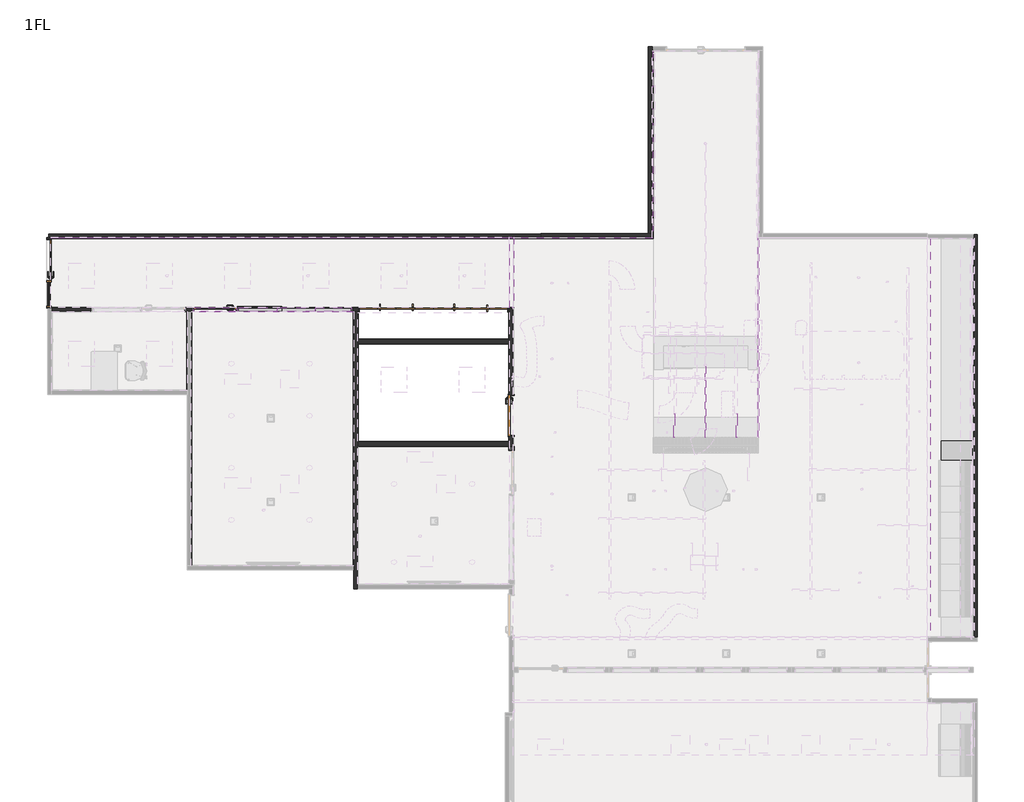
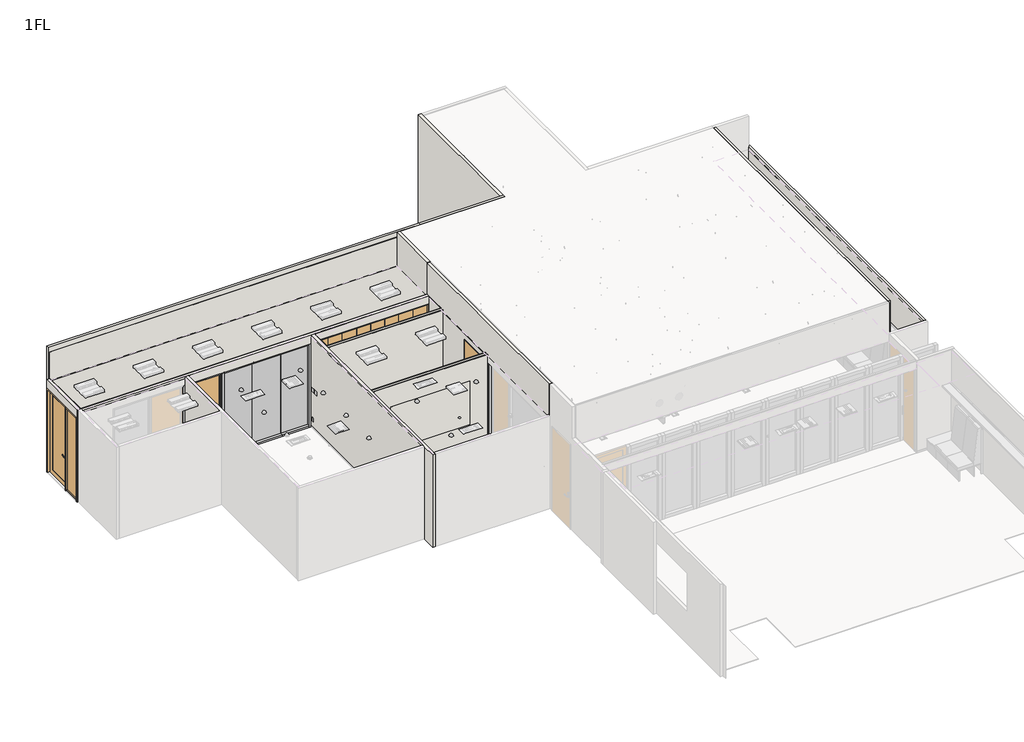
# One storey, part 3 of 13: 33 walls, 16 members, 5 plates, 4 doors.
"""IFC4 building model written with IfcOpenShell, lengths in millimetres."""

from ifc_helpers import new_model, si_unit, frame, origin, place, context, project, spatial, polyline, outline, extrude, faceted_brep, transform, mapped, element, save
from components import steel_single_door_gpd_1_6503526e, steel_single_door_side_glass_gd_1e_1588x2700_2b40b70f, wd_3_3425x2700_77d3bb71, wood_single_door_sd_1_950x2700_4097bdad, frame_100x1003_340101ea, frame_50x100_849c561a, frame_50x100_6c4cdc7a, frame_50x100_6d6498be, frame_50x100_53001aca, frame_50x100_defbaeaa, frame_50x100_1ab4e24a, frame_50x100_909e5fd4, louver_20x150_8d1ae680, louver_20x150_c1fe2151, plate_64bb2212, interior_panel_glass_b28fc904, interior_panel_glass_ff3a4b2f, interior_panel_glass_b2a39446, millwork_bench2_millwork_bench2_b35541bf

model = new_model("IFC4")

# Units and contexts
model_context = context("Model", 3, world=origin())
ifc_project = project(units=[si_unit("LENGTHUNIT", "METRE", prefix="MILLI")], contexts=[model_context])

# Site, building, storey
site = spatial("IfcSite", under=ifc_project)
building = spatial("IfcBuilding", under=site)
storey = spatial("IfcBuildingStorey", under=building, Name="1FL", Elevation=500.0)

# Doors
placement = place(None, origin())
steel_single_door_gpd_1_shape = steel_single_door_gpd_1_6503526e(model_context)
element("IfcDoor", 1, ObjectType="Steel-Single-Door : GPD-1", at=placement, inside=storey, context=model_context, shape_type="MappedRepresentation", body=[
    mapped(steel_single_door_gpd_1_shape, transform((4722.9103689, 3423.4351177, 500.0), x_axis=(1.0, 0.0, 0.0), y_axis=(0.0, 1.0, 0.0), z_axis=(0.0, 0.0, 1.0))),
])
steel_single_door_side_glass_gd_1e_1588x2700_shape = steel_single_door_side_glass_gd_1e_1588x2700_2b40b70f(model_context)
element("IfcDoor", 2, ObjectType="Steel_Single-Door_Side-Glass : GD-1E_1588X2700", at=placement, inside=storey, context=model_context, shape_type="MappedRepresentation", body=[
    mapped(steel_single_door_side_glass_gd_1e_1588x2700_shape, transform((897.1488246, 4270.1921609, 500.0), x_axis=(0.0, 1.0, 0.0), y_axis=(-1.0, 0.0, 0.0), z_axis=(0.0, 0.0, 1.0))),
])
wd_3_3425x2700_shape = wd_3_3425x2700_77d3bb71(model_context)
element("IfcDoor", 3, ObjectType="Ward-Robe : WD-3_3425x2700", at=placement, inside=storey, context=model_context, shape_type="MappedRepresentation", body=[
    mapped(wd_3_3425x2700_shape, transform((9753.3186442, 3417.9345805, 500.0), x_axis=(1.0, 0.0, 0.0), y_axis=(0.0, 1.0, 0.0), z_axis=(0.0, 0.0, 1.0))),
])
wood_single_door_sd_1_950x2700_shape = wood_single_door_sd_1_950x2700_4097bdad(model_context)
element("IfcDoor", 4, ObjectType="Wood_Single-Door : SD-1_950x2700", at=placement, inside=storey, context=model_context, shape_type="MappedRepresentation", body=[
    mapped(wood_single_door_sd_1_950x2700_shape, transform((11543.0692788, 984.6264721, 500.0), x_axis=(0.0, 1.0, 0.0), y_axis=(-1.0, 0.0, 0.0), z_axis=(0.0, 0.0, 1.0))),
])

# Members
frame_100x1003_shape = frame_100x1003_340101ea(model_context)
element("IfcMember", 5, ObjectType="長方形マリオン : frame-100x1003", at=placement, inside=storey, context=model_context, shape_type="MappedRepresentation", body=[
    mapped(frame_100x1003_shape, transform((11548.5692788, 273.6264721, 3200.0), x_axis=(0.0, 1.0, 0.0), y_axis=(-1.0, 0.0, 0.0), z_axis=(0.0, 0.0, 1.0))),
])
frame_50x100_shape = frame_50x100_849c561a(model_context)
element("IfcMember", 6, ObjectType="長方形マリオン : frame-50x100", at=placement, inside=storey, context=model_context, shape_type="MappedRepresentation", body=[
    mapped(frame_50x100_shape, transform((7908.0480096, 3423.4351177, 500.0), x_axis=(1.0, 0.0, 0.0), y_axis=(0.0, -1.0, 0.0), z_axis=(0.0, 0.0, -1.0))),
])
frame_50x100_2_shape = frame_50x100_6c4cdc7a(model_context)
element("IfcMember", 7, ObjectType="長方形マリオン : frame-50x100", at=placement, inside=storey, context=model_context, shape_type="MappedRepresentation", body=[
    mapped(frame_50x100_2_shape, transform((5235.4103689, 3438.4345805, 500.0), x_axis=(0.0, 0.0, -1.0), y_axis=(0.0, -1.0, 0.0), z_axis=(-1.0, 0.0, 0.0))),
])
element("IfcMember", 8, ObjectType="長方形マリオン : frame-50x100", at=placement, inside=storey, context=model_context, shape_type="MappedRepresentation", body=[
    mapped(frame_50x100_shape, transform((4185.4103689, 3423.4351177, 3200.0), x_axis=(-1.0, 0.0, 0.0), y_axis=(0.0, -1.0, 0.0), z_axis=(0.0, 0.0, 1.0))),
])
frame_50x100_3_shape = frame_50x100_6d6498be(model_context)
element("IfcMember", 9, ObjectType="長方形マリオン : frame-50x100", at=placement, inside=storey, context=model_context, shape_type="MappedRepresentation", body=[
    mapped(frame_50x100_3_shape, transform((5210.4103689, 3423.4351177, 3200.0), x_axis=(0.0, 0.0, 1.0), y_axis=(0.0, -1.0, 0.0), z_axis=(1.0, 0.0, 0.0))),
])
frame_50x100_4_shape = frame_50x100_53001aca(model_context)
element("IfcMember", 10, ObjectType="長方形マリオン : frame-50x100", at=placement, inside=storey, context=model_context, shape_type="MappedRepresentation", body=[
    mapped(frame_50x100_4_shape, transform((5235.4103689, 3423.4351177, 500.0), x_axis=(1.0, 0.0, 0.0), y_axis=(0.0, -1.0, 0.0), z_axis=(0.0, 0.0, -1.0))),
])
frame_50x100_5_shape = frame_50x100_defbaeaa(model_context)
element("IfcMember", 11, ObjectType="長方形マリオン : frame-50x100", at=placement, inside=storey, context=model_context, shape_type="MappedRepresentation", body=[
    mapped(frame_50x100_5_shape, transform((7858.0480096, 3423.4351177, 3200.0), x_axis=(0.0, 0.0, 1.0), y_axis=(0.0, -1.0, 0.0), z_axis=(1.0, 0.0, 0.0))),
])
element("IfcMember", 12, ObjectType="長方形マリオン : frame-50x100", at=placement, inside=storey, context=model_context, shape_type="MappedRepresentation", body=[
    mapped(frame_50x100_5_shape, transform((7033.0480096, 3423.4351177, 500.0), x_axis=(0.0, 0.0, -1.0), y_axis=(0.0, -1.0, 0.0), z_axis=(-1.0, 0.0, 0.0))),
])
frame_50x100_6_shape = frame_50x100_1ab4e24a(model_context)
element("IfcMember", 13, ObjectType="長方形マリオン : frame-50x100", at=placement, inside=storey, context=model_context, shape_type="MappedRepresentation", body=[
    mapped(frame_50x100_6_shape, transform((6158.0480096, 3423.4351177, 500.0), x_axis=(0.0, 0.0, -1.0), y_axis=(0.0, -1.0, 0.0), z_axis=(-1.0, 0.0, 0.0))),
])
frame_50x100_7_shape = frame_50x100_909e5fd4(model_context)
element("IfcMember", 14, ObjectType="長方形マリオン : frame-50x100", at=placement, inside=storey, context=model_context, shape_type="MappedRepresentation", body=[
    mapped(frame_50x100_7_shape, transform((6158.0480096, 3423.4351177, 3200.0), x_axis=(0.0, 0.0, 1.0), y_axis=(0.0, -1.0, 0.0), z_axis=(1.0, 0.0, 0.0))),
])
element("IfcMember", 15, ObjectType="長方形マリオン : frame-50x100", at=placement, inside=storey, context=model_context, shape_type="MappedRepresentation", body=[
    mapped(frame_50x100_6_shape, transform((7033.0480096, 3423.4351177, 3200.0), x_axis=(0.0, 0.0, 1.0), y_axis=(0.0, -1.0, 0.0), z_axis=(1.0, 0.0, 0.0))),
])
element("IfcMember", 16, ObjectType="長方形マリオン : frame-50x100", at=placement, inside=storey, context=model_context, shape_type="MappedRepresentation", body=[
    mapped(frame_50x100_7_shape, transform((5260.4103689, 3423.4351177, 500.0), x_axis=(0.0, 0.0, -1.0), y_axis=(0.0, -1.0, 0.0), z_axis=(-1.0, 0.0, 0.0))),
])
element("IfcMember", 17, ObjectType="長方形マリオン : frame-50x100", at=placement, inside=storey, context=model_context, shape_type="MappedRepresentation", body=[
    mapped(frame_50x100_shape, transform((4074.3703689, 3423.4351177, 3200.0), x_axis=(1.0, 0.0, 0.0), y_axis=(0.0, 1.0, 0.0), z_axis=(0.0, 0.0, 1.0))),
])
louver_20x150_shape = louver_20x150_8d1ae680(model_context)
element("IfcMember", 18, ObjectType="長方形マリオン : louver-20x150", at=placement, inside=storey, context=model_context, shape_type="MappedRepresentation", body=[
    mapped(louver_20x150_shape, transform((16018.0692785, 2117.4284088, 3075.0), x_axis=(1.0, 0.0, 0.0), y_axis=(0.0, 0.0, -1.0), z_axis=(0.0, 1.0, 0.0))),
])
louver_20x150_2_shape = louver_20x150_c1fe2151(model_context)
element("IfcMember", 19, ObjectType="長方形マリオン : louver-20x150", at=placement, inside=storey, context=model_context, shape_type="MappedRepresentation", body=[
    mapped(louver_20x150_2_shape, transform((15298.0692785, 1033.4827523, 3075.0), x_axis=(1.0, 0.0, 0.0), y_axis=(0.0, 0.0, -1.0), z_axis=(0.0, 1.0, 0.0))),
])
element("IfcMember", 20, ObjectType="長方形マリオン : louver-20x150", at=placement, inside=storey, context=model_context, shape_type="MappedRepresentation", body=[
    mapped(louver_20x150_2_shape, transform((16738.0692785, 1033.4827523, 3075.0), x_axis=(1.0, 0.0, 0.0), y_axis=(0.0, 0.0, -1.0), z_axis=(0.0, 1.0, 0.0))),
])

# Plates
plate_shape = plate_64bb2212(model_context)
element("IfcPlate", 21, ObjectType="システム パネルなし : なし", at=placement, inside=storey, context=model_context, shape_type="MappedRepresentation", body=[
    mapped(plate_shape, transform((17236.0692784, 479.1921609, 3075.0), x_axis=(1.0, 0.0, 0.0), y_axis=(0.0, 0.0, -1.0), z_axis=(0.0, 1.0, 0.0))),
])
interior_panel_glass_shape = interior_panel_glass_b28fc904(model_context)
element("IfcPlate", 22, ObjectType="Interior-Panel : Glass", at=placement, inside=storey, context=model_context, shape_type="MappedRepresentation", body=[
    mapped(interior_panel_glass_shape, transform((5709.2291893, 3423.4351177, 550.0), x_axis=(1.0, 0.0, 0.0), y_axis=(0.0, 1.0, 0.0), z_axis=(0.0, 0.0, 1.0))),
])
interior_panel_glass_2_shape = interior_panel_glass_ff3a4b2f(model_context)
element("IfcPlate", 23, ObjectType="Interior-Panel : Glass", at=placement, inside=storey, context=model_context, shape_type="MappedRepresentation", body=[
    mapped(interior_panel_glass_2_shape, transform((6595.5480096, 3423.4351177, 550.0), x_axis=(1.0, 0.0, 0.0), y_axis=(0.0, 1.0, 0.0), z_axis=(0.0, 0.0, 1.0))),
])
interior_panel_glass_3_shape = interior_panel_glass_b2a39446(model_context)
element("IfcPlate", 24, ObjectType="Interior-Panel : Glass", at=placement, inside=storey, context=model_context, shape_type="MappedRepresentation", body=[
    mapped(interior_panel_glass_3_shape, transform((7445.5480096, 3423.4351177, 550.0), x_axis=(1.0, 0.0, 0.0), y_axis=(0.0, 1.0, 0.0), z_axis=(0.0, 0.0, 1.0))),
])
millwork_bench2_millwork_bench2_shape = millwork_bench2_millwork_bench2_b35541bf(model_context)
element("IfcPlate", 25, ObjectType="Millwork Bench2 : Millwork Bench2", at=placement, inside=storey, context=model_context, shape_type="MappedRepresentation", body=[
    mapped(millwork_bench2_millwork_bench2_shape, transform((22170.569283, 178.6991949, 500.0), x_axis=(0.0, 1.0, 0.0), y_axis=(-1.0, 0.0, 0.0), z_axis=(0.0, 0.0, 1.0))),
])

# Walls
element("IfcWall", 26, ObjectType="CF-5", at=placement, inside=storey, context=model_context, shape_type="SweptSolid", body=[
    extrude(outline(polyline([(21127.5692788, -4129.7797031), (21127.5692788, 5071.1921609), (21194.5692788, 5071.1921609), (21194.5692788, -4129.7797031), (21127.5692788, -4129.7797031)])), frame((0.0, 0.0, 3467.0), z_axis=(0.0, 0.0, 1.0), x_axis=(1.0, 0.0, 0.0)), (0.0, 0.0, 1.0), 1003.0),
])
element("IfcWall", 27, ObjectType="W-1", at=placement, inside=storey, context=model_context, shape_type="Brep", body=[
    faceted_brep([(8009.5680096, -3010.7797031, 500.0), (8009.5680096, -2918.7797031, 500.0), (8009.5680096, 283.1264721, 500.0), (8009.5680096, 375.1264721, 500.0), (8009.5680096, 2638.5099201, 500.0), (8009.5680096, 2730.5099201, 500.0), (8009.5680096, 3371.9345805, 500.0), (8009.5680096, 3371.9345805, 3465.0), (8009.5680096, -2918.7797031, 3465.0), (8009.5680096, -3010.7797031, 3465.0), (7917.5680096, -3010.7797031, 500.0), (7917.5680096, -3010.7797031, 3465.0), (7917.5680096, -2576.9426633, 3465.0), (7917.5680096, -2484.9426633, 3465.0), (7917.5680096, 3371.9345805, 3465.0), (7917.5680096, 3371.9345805, 500.0), (7917.5680096, -2484.9426633, 500.0), (7917.5680096, -2576.9426633, 500.0)], [[[0, 1, 2, 3, 4, 5, 6, 7, 8, 9]], [[10, 11, 12, 13, 14, 15, 16, 17]], [[6, 5, 4, 3, 2, 1, 0, 10, 17, 16, 15]], [[9, 8, 7, 14, 13, 12, 11]], [[0, 9, 11, 10]], [[7, 6, 15, 14]]]),
])
element("IfcWall", 28, ObjectType="W-3", at=placement, inside=storey, context=model_context, shape_type="Brep", body=[
    faceted_brep([(22279.569283, -4129.7797031, 500.0), (22279.569283, 5150.6921609, 500.0), (22279.569283, 5150.6921609, 3467.0), (22279.569283, -4129.7797031, 3467.0), (22279.569283, -4129.7797031, 3465.0), (22200.069283, -4129.7797031, 500.0), (22200.069283, -4129.7797031, 3400.0), (22200.069283, -4129.7797031, 3467.0), (22200.069283, 5071.1921609, 3467.0), (22200.069283, 5150.6921609, 3467.0), (22200.069283, 5150.6921609, 500.0), (22200.069283, 5071.1921609, 500.0)], [[[0, 1, 2, 3, 4]], [[5, 6, 7, 8, 9, 10, 11]], [[1, 0, 5, 11, 10]], [[3, 2, 9, 8, 7]], [[0, 4, 3, 7, 6, 5]], [[2, 1, 10, 9]]]),
])
element("IfcWall", 29, ObjectType="W-3", at=placement, inside=storey, context=model_context, shape_type="Brep", body=[
    faceted_brep([(12218.5692788, 5167.6921609, 500.0), (897.1488246, 5167.6921609, 500.0), (897.1488246, 5167.6921609, 4470.0), (12218.5692788, 5167.6921609, 4470.0), (12218.5692788, 5088.1921609, 500.0), (12218.5692788, 5088.1921609, 4470.0), (11598.5892788, 5088.1921609, 4470.0), (11506.5892788, 5088.1921609, 4470.0), (897.1488246, 5088.1921609, 4470.0), (897.1488246, 5088.1921609, 500.0)], [[[0, 1, 2, 3]], [[4, 5, 6, 7, 8, 9]], [[1, 0, 4, 9]], [[2, 1, 9, 8]], [[3, 2, 8, 7, 6, 5]], [[0, 3, 5, 4]]]),
])
element("IfcWall", 30, ObjectType="W-3A", at=placement, inside=storey, context=model_context, shape_type="Brep", body=[
    faceted_brep([(12218.5692788, 5079.6921609, 500.0), (14790.0692785, 5079.6921609, 500.0), (14790.0692785, 5079.6921609, 4470.0), (12218.5692788, 5079.6921609, 4470.0), (12218.5692788, 5168.6921609, 500.0), (12218.5692788, 5168.6921609, 4470.0), (14701.0692785, 5168.6921609, 4470.0), (14790.0692785, 5168.6921609, 4470.0), (14790.0692785, 5168.6921609, 500.0), (14701.0692785, 5168.6921609, 500.0), (12218.5692788, 5088.1921609, 500.0), (12218.5692788, 5167.6921609, 500.0), (12218.5692788, 5167.6921609, 4470.0), (12218.5692788, 5088.1921609, 4470.0)], [[[0, 1, 2, 3]], [[4, 5, 6, 7, 8, 9]], [[1, 0, 10, 11, 4, 9, 8]], [[3, 2, 7, 6, 5, 12, 13]], [[0, 3, 13, 12, 5, 4, 11, 10]], [[2, 1, 8, 7]]]),
])
element("IfcWall", 31, ObjectType="W-3A", at=placement, inside=storey, context=model_context, shape_type="Brep", body=[
    faceted_brep([(14790.0692785, 5168.6921609, 500.0), (14790.0692785, 9390.6921609, 500.0), (14790.0692785, 9479.6921609, 500.0), (14790.0692785, 9479.6921609, 4470.0), (14790.0692785, 9390.6921609, 4470.0), (14790.0692785, 5168.6921609, 4470.0), (14701.0692785, 5168.6921609, 500.0), (14701.0692785, 5168.6921609, 4470.0), (14701.0692785, 9479.6921609, 4470.0), (14701.0692785, 9479.6921609, 500.0)], [[[0, 1, 2, 3, 4, 5]], [[6, 7, 8, 9]], [[2, 1, 0, 6, 9]], [[5, 4, 3, 8, 7]], [[3, 2, 9, 8]], [[0, 5, 7, 6]]]),
])
element("IfcWall", 32, ObjectType="W-4", at=placement, inside=storey, context=model_context, shape_type="Brep", body=[
    faceted_brep([(943.1488246, 5079.6921609, 3465.0), (943.1488246, 5061.6921609, 3465.0), (943.1488246, 3473.4345805, 3465.0), (943.1488246, 3463.9345805, 3465.0), (943.1488246, 3463.9345805, 500.0), (943.1488246, 3473.4345805, 500.0), (943.1488246, 3473.6921609, 500.0), (943.1488246, 3473.6921609, 3200.0), (943.1488246, 5061.6921609, 3200.0), (943.1488246, 5061.6921609, 500.0), (943.1488246, 5079.6921609, 500.0), (943.1488246, 5079.6921609, 3400.0), (851.1488246, 3463.9345805, 3465.0), (851.1488246, 5079.6921609, 3465.0), (851.1488246, 5079.6921609, 500.0), (851.1488246, 5061.6921609, 500.0), (851.1488246, 5061.6921609, 3200.0), (851.1488246, 3473.6921609, 3200.0), (851.1488246, 3473.6921609, 500.0), (851.1488246, 3463.9345805, 500.0), (871.6488246, 3463.9345805, 500.0), (871.6488246, 3463.9345805, 3465.0)], [[[0, 1, 2, 3, 4, 5, 6, 7, 8, 9, 10, 11]], [[12, 13, 14, 15, 16, 17, 18, 19]], [[4, 20, 19, 18, 6, 5]], [[14, 10, 9, 15]], [[3, 2, 1, 0, 13, 12, 21]], [[4, 3, 21, 12, 19, 20]], [[10, 14, 13, 0, 11]], [[17, 7, 6, 18]], [[7, 17, 16, 8]], [[8, 16, 15, 9]]]),
])
element("IfcWall", 33, ObjectType="W-5", at=placement, inside=storey, context=model_context, shape_type="SweptSolid", body=[
    extrude(outline(polyline([(11497.0692788, 283.1264721), (8009.5680096, 283.1264721), (8009.5680096, 375.1264721), (11497.0692788, 375.1264721), (11497.0692788, 283.1264721)])), frame((0.0, 0.0, 500.0), z_axis=(0.0, 0.0, 1.0), x_axis=(1.0, 0.0, 0.0)), (0.0, 0.0, 1.0), 2900.0),
])
element("IfcWall", 34, ObjectType="W-5", at=placement, inside=storey, context=model_context, shape_type="SweptSolid", body=[
    extrude(outline(polyline([(11497.0692788, 2638.5099201), (8009.5680096, 2638.5099201), (8009.5680096, 2730.5099201), (11497.0692788, 2730.5099201), (11497.0692788, 2638.5099201)])), frame((0.0, 0.0, 500.0), z_axis=(0.0, 0.0, 1.0), x_axis=(1.0, 0.0, 0.0)), (0.0, 0.0, 1.0), 2900.0),
])
element("IfcWall", 35, ObjectType="W-5", at=placement, inside=storey, context=model_context, shape_type="Brep", body=[
    faceted_brep([(963.6488246, 3463.9345805, 3465.0), (11497.0692788, 3463.9345805, 3465.0), (11497.0692788, 3463.9345805, 500.0), (11485.8186442, 3463.9345805, 500.0), (11485.8186442, 3463.9345805, 3220.0), (8020.8186442, 3463.9345805, 3220.0), (8020.8186442, 3463.9345805, 500.0), (7908.0480096, 3463.9345805, 500.0), (7908.0480096, 3463.9345805, 3200.0), (4185.4103689, 3463.9345805, 3200.0), (4185.4103689, 3463.9345805, 500.0), (4074.3703689, 3463.9345805, 500.0), (4074.3703689, 3463.9345805, 3200.0), (1874.3703689, 3463.9345805, 3200.0), (1874.3703689, 3463.9345805, 500.0), (963.6488246, 3463.9345805, 500.0), (11497.0692788, 3371.9345805, 3465.0), (11487.5692788, 3371.9345805, 3465.0), (8019.0679924, 3371.9345805, 3465.0), (8009.5680096, 3371.9345805, 3465.0), (7917.5680096, 3371.9345805, 3465.0), (7908.0680096, 3371.9345805, 3465.0), (4185.4103689, 3371.9345805, 3465.0), (4175.8903689, 3371.9345805, 3465.0), (4083.8903689, 3371.9345805, 3465.0), (963.6488246, 3371.9345805, 3465.0), (963.6488246, 3371.9345805, 500.0), (973.1488246, 3371.9345805, 500.0), (1874.3703689, 3371.9345805, 500.0), (1874.3703689, 3371.9345805, 3200.0), (4074.3703689, 3371.9345805, 3200.0), (4074.3703689, 3371.9345805, 500.0), (4083.8903689, 3371.9345805, 500.0), (4175.8903689, 3371.9345805, 500.0), (4185.4103689, 3371.9345805, 500.0), (4185.4103689, 3371.9345805, 3200.0), (7908.0480096, 3371.9345805, 3200.0), (7908.0480096, 3371.9345805, 500.0), (7917.5680096, 3371.9345805, 500.0), (8009.5680096, 3371.9345805, 500.0), (8019.0679924, 3371.9345805, 500.0), (8020.8186442, 3371.9345805, 500.0), (8020.8186442, 3371.9345805, 3220.0), (11485.8186442, 3371.9345805, 3220.0), (11485.8186442, 3371.9345805, 500.0), (11487.5692788, 3371.9345805, 500.0), (11497.0692788, 3371.9345805, 500.0)], [[[0, 1, 2, 3, 4, 5, 6, 7, 8, 9, 10, 11, 12, 13, 14, 15]], [[16, 17, 18, 19, 20, 21, 22, 23, 24, 25, 26, 27, 28, 29, 30, 31, 32, 33, 34, 35, 36, 37, 38, 39, 40, 41, 42, 43, 44, 45, 46]], [[26, 15, 14, 28, 27]], [[10, 34, 33, 32, 31, 11]], [[37, 7, 6, 41, 40, 39, 38]], [[44, 3, 2, 46, 45]], [[1, 0, 25, 24, 23, 22, 21, 20, 19, 18, 17, 16]], [[0, 15, 26, 25]], [[30, 12, 11, 31]], [[12, 30, 29, 13]], [[13, 29, 28, 14]], [[9, 35, 34, 10]], [[8, 36, 35, 9]], [[36, 8, 7, 37]], [[44, 43, 4, 3]], [[42, 41, 6, 5]], [[43, 42, 5, 4]], [[46, 2, 1, 16]]]),
])
element("IfcWall", 36, ObjectType="W-6A", at=placement, inside=storey, context=model_context, shape_type="Brep", body=[
    faceted_brep([(11589.0692788, 3463.9345805, 4470.0), (11589.0692788, -2964.7797031, 4470.0), (11589.0692788, -2964.7797031, 3465.0), (11589.0692788, -2918.7797031, 3465.0), (11589.0692788, -2918.7797031, 500.0), (11589.0692788, -2909.2797031, 500.0), (11589.0692788, -2909.2797031, 3200.0), (11589.0692788, 273.6264721, 3200.0), (11589.0692788, 273.6264721, 500.0), (11589.0692788, 514.6264721, 500.0), (11589.0692788, 514.6264721, 3190.0), (11589.0692788, 1454.6264721, 3190.0), (11589.0692788, 1454.6264721, 500.0), (11589.0692788, 3463.9345805, 500.0), (11589.0692788, 3463.9345805, 3465.0), (11497.0692788, -2964.7797031, 4470.0), (11497.0692788, 3463.9345805, 4470.0), (11497.0692788, 3463.9345805, 3465.0), (11497.0692788, 3463.9345805, 500.0), (11497.0692788, 3371.9345805, 500.0), (11497.0692788, 2730.5099201, 500.0), (11497.0692788, 2638.5099201, 500.0), (11497.0692788, 2629.0099201, 500.0), (11497.0692788, 1469.6264721, 500.0), (11497.0692788, 1469.6264721, 3205.0), (11497.0692788, 499.6264721, 3205.0), (11497.0692788, 499.6264721, 500.0), (11497.0692788, 384.6264721, 500.0), (11497.0692788, 375.1264721, 500.0), (11497.0692788, 283.1264721, 500.0), (11497.0692788, 273.6264721, 500.0), (11497.0692788, 273.6264721, 3200.0), (11497.0692788, -2909.2797031, 3200.0), (11497.0692788, -2909.2797031, 500.0), (11497.0692788, -2918.7797031, 500.0), (11497.0692788, -2918.7797031, 3400.0), (11497.0692788, -2918.7797031, 3465.0), (11497.0692788, -2964.7797031, 3465.0), (11527.0692788, 1454.6264721, 500.0), (11527.0692788, 1469.6264721, 500.0), (11527.0692788, 499.6264721, 500.0), (11527.0692788, 514.6264721, 500.0), (11527.0692788, 1469.6264721, 3205.0), (11527.0692788, 499.6264721, 3205.0), (11527.0692788, 1454.6264721, 3190.0), (11527.0692788, 514.6264721, 3190.0)], [[[0, 1, 2, 3, 4, 5, 6, 7, 8, 9, 10, 11, 12, 13, 14]], [[15, 16, 17, 18, 19, 20, 21, 22, 23, 24, 25, 26, 27, 28, 29, 30, 31, 32, 33, 34, 35, 36, 37]], [[4, 34, 33, 5]], [[18, 13, 12, 38, 39, 23, 22, 21, 20, 19]], [[26, 40, 41, 9, 8, 30, 29, 28, 27]], [[1, 0, 16, 15]], [[0, 14, 13, 18, 17, 16]], [[42, 43, 25, 24]], [[43, 40, 26, 25]], [[43, 42, 39, 38, 44, 45, 41, 40]], [[39, 42, 24, 23]], [[45, 44, 11, 10]], [[41, 45, 10, 9]], [[44, 38, 12, 11]], [[1, 15, 37, 2]], [[2, 37, 36, 3]], [[34, 4, 3, 36, 35]], [[7, 31, 30, 8]], [[32, 6, 5, 33]], [[6, 32, 31, 7]]]),
])
element("IfcWall", 37, ObjectType="W-6A", at=placement, inside=storey, context=model_context, shape_type="Brep", body=[
    faceted_brep([(11506.5892788, 5088.1921609, 3400.0), (11506.5892788, 3473.4345805, 3400.0), (11506.5892788, 3473.4345805, 4470.0), (11506.5892788, 5088.1921609, 4470.0), (11598.5892788, 5088.1921609, 3400.0), (11598.5892788, 5088.1921609, 4470.0), (11598.5892788, 3473.4345805, 4470.0), (11598.5892788, 3473.4345805, 3465.0), (11598.5892788, 3473.4345805, 3400.0)], [[[0, 1, 2, 3]], [[4, 5, 6, 7, 8]], [[1, 0, 4, 8]], [[3, 2, 6, 5]], [[0, 3, 5, 4]], [[2, 1, 8, 7, 6]]]),
])
element("IfcWall", 38, ObjectType="WF-1", at=placement, inside=storey, context=model_context, shape_type="Brep", body=[
    faceted_brep([(8009.5680096, 375.1264721, 500.0), (11497.0692788, 375.1264721, 500.0), (11497.0692788, 375.1264721, 3465.0), (8009.5680096, 375.1264721, 3465.0), (8009.5680096, 384.6264721, 500.0), (8009.5680096, 384.6264721, 3400.0), (8009.5680096, 384.6264721, 3465.0), (11497.0692788, 384.6264721, 3465.0), (11497.0692788, 384.6264721, 3400.0), (11497.0692788, 384.6264721, 500.0), (11487.5692788, 384.6264721, 500.0), (8019.0680096, 384.6264721, 500.0)], [[[0, 1, 2, 3]], [[4, 5, 6, 7, 8, 9, 10, 11]], [[0, 3, 6, 5, 4]], [[2, 1, 9, 8, 7]], [[1, 0, 4, 11, 10, 9]], [[3, 2, 7, 6]]]),
])
element("IfcWall", 39, ObjectType="WF-1", at=placement, inside=storey, context=model_context, shape_type="Brep", body=[
    faceted_brep([(8019.0680096, 384.6264721, 500.0), (8019.0680096, 2629.0099201, 500.0), (8019.0680096, 2638.5099201, 500.0), (8019.0680096, 2638.5099201, 3400.0), (8019.0680096, 384.6264721, 3400.0), (8009.5680096, 384.6264721, 500.0), (8009.5680096, 384.6264721, 3400.0), (8009.5680096, 2638.5099201, 3400.0), (8009.5680096, 2638.5099201, 500.0)], [[[0, 1, 2, 3, 4]], [[5, 6, 7, 8]], [[2, 1, 0, 5, 8]], [[4, 3, 7, 6]], [[0, 4, 6, 5]], [[3, 2, 8, 7]]]),
])
element("IfcWall", 40, ObjectType="WF-1", at=placement, inside=storey, context=model_context, shape_type="Brep", body=[
    faceted_brep([(8019.0680096, 2629.0099201, 500.0), (11487.5692788, 2629.0099201, 500.0), (11497.0692788, 2629.0099201, 500.0), (11497.0692788, 2629.0099201, 3400.0), (11497.0692788, 2629.0099201, 3465.0), (8019.0680096, 2629.0099201, 3465.0), (8019.0680096, 2638.5099201, 500.0), (8019.0680096, 2638.5099201, 3400.0), (8019.0680096, 2638.5099201, 3465.0), (11497.0692788, 2638.5099201, 3465.0), (11497.0692788, 2638.5099201, 500.0)], [[[0, 1, 2, 3, 4, 5]], [[6, 7, 8, 9, 10]], [[2, 1, 0, 6, 10]], [[5, 4, 9, 8]], [[0, 5, 8, 7, 6]], [[4, 3, 2, 10, 9]]]),
])
element("IfcWall", 41, ObjectType="WF-1", at=placement, inside=storey, context=model_context, shape_type="SweptSolid", body=[
    extrude(outline(polyline([(384.6264721, 3400.0), (2629.0099201, 3400.0), (2629.0099201, 500.0), (1469.6264721, 500.0), (1469.6264721, 3205.0), (499.6264721, 3205.0), (499.6264721, 500.0), (384.6264721, 500.0), (384.6264721, 3400.0)])), frame((11487.5692788, 0.0, 0.0), z_axis=(1.0, 0.0, 0.0), x_axis=(0.0, 1.0, 0.0)), (0.0, 0.0, 1.0), 9.5),
])
element("IfcWall", 42, ObjectType="WF-1", at=placement, inside=storey, context=model_context, shape_type="Brep", body=[
    faceted_brep([(8009.5679924, 3371.9345805, 500.0), (8009.5679924, 2730.5099201, 500.0), (8009.5679924, 2730.5099201, 3465.0), (8009.5679924, 3371.9345805, 3465.0), (8019.0679924, 3371.9345805, 500.0), (8019.0679924, 3371.9345805, 3465.0), (8019.0679924, 3362.4345805, 3465.0), (8019.0679924, 2740.0099201, 3465.0), (8019.0679924, 2730.5099201, 3465.0), (8019.0679924, 2730.5099201, 500.0), (8019.0679924, 2740.0099201, 500.0), (8019.0679924, 3362.4345805, 500.0)], [[[0, 1, 2, 3]], [[4, 5, 6, 7, 8, 9, 10, 11]], [[1, 0, 4, 11, 10, 9]], [[3, 2, 8, 7, 6, 5]], [[2, 1, 9, 8]], [[0, 3, 5, 4]]]),
])
element("IfcWall", 43, ObjectType="WF-1", at=placement, inside=storey, context=model_context, shape_type="Brep", body=[
    faceted_brep([(8019.0679924, 2730.5099201, 500.0), (11497.0692788, 2730.5099201, 500.0), (11497.0692788, 2730.5099201, 3465.0), (8019.0679924, 2730.5099201, 3465.0), (8019.0679924, 2740.0099201, 500.0), (8019.0679924, 2740.0099201, 3465.0), (11487.5692788, 2740.0099201, 3465.0), (11497.0692788, 2740.0099201, 3465.0), (11497.0692788, 2740.0099201, 500.0), (11487.5692788, 2740.0099201, 500.0)], [[[0, 1, 2, 3]], [[4, 5, 6, 7, 8, 9]], [[1, 0, 4, 9, 8]], [[3, 2, 7, 6, 5]], [[0, 3, 5, 4]], [[2, 1, 8, 7]]]),
])
element("IfcWall", 44, ObjectType="WF-1", at=placement, inside=storey, context=model_context, shape_type="Brep", body=[
    faceted_brep([(11497.0692788, 2740.0099201, 500.0), (11497.0692788, 3371.9345805, 500.0), (11497.0692788, 3371.9345805, 3465.0), (11497.0692788, 2740.0099201, 3465.0), (11487.5692788, 2740.0099201, 500.0), (11487.5692788, 2740.0099201, 3465.0), (11487.5692788, 3362.4345805, 3465.0), (11487.5692788, 3371.9345805, 3465.0), (11487.5692788, 3371.9345805, 500.0), (11487.5692788, 3362.4345805, 500.0)], [[[0, 1, 2, 3]], [[4, 5, 6, 7, 8, 9]], [[1, 0, 4, 9, 8]], [[3, 2, 7, 6, 5]], [[0, 3, 5, 4]], [[2, 1, 8, 7]]]),
])
element("IfcWall", 45, ObjectType="WF-1", at=placement, inside=storey, context=model_context, shape_type="SweptSolid", body=[
    extrude(outline(polyline([(500.0, 8019.0679924), (500.0, 8020.8186442), (3220.0, 8020.8186442), (3220.0, 11485.8186442), (500.0, 11485.8186442), (500.0, 11487.5692788), (3465.0, 11487.5692788), (3465.0, 8019.0679924), (500.0, 8019.0679924)])), frame((0.0, 3362.4345805, 0.0), z_axis=(0.0, 1.0, 0.0), x_axis=(0.0, 0.0, 1.0)), (0.0, 0.0, 1.0), 9.5),
])
element("IfcWall", 46, ObjectType="WF-1", at=placement, inside=storey, context=model_context, shape_type="Brep", body=[
    faceted_brep([(8020.8186442, 3473.4345805, 3220.0), (8020.8186442, 3473.4345805, 500.0), (7908.0480096, 3473.4345805, 500.0), (7908.0480096, 3473.4345805, 3200.0), (4185.4103689, 3473.4345805, 3200.0), (4185.4103689, 3473.4345805, 500.0), (4074.3703689, 3473.4345805, 500.0), (4074.3703689, 3473.4345805, 3200.0), (1874.3703689, 3473.4345805, 3200.0), (1874.3703689, 3473.4345805, 500.0), (952.6488246, 3473.4345805, 500.0), (943.1488246, 3473.4345805, 500.0), (943.1488246, 3473.4345805, 3465.0), (952.6488246, 3473.4345805, 3465.0), (11598.5692788, 3473.4345805, 3465.0), (11598.5692788, 3473.4345805, 3400.0), (11598.5692788, 3473.4345805, 500.0), (11485.8186442, 3473.4345805, 500.0), (11485.8186442, 3473.4345805, 3220.0), (7908.0480096, 3463.9345805, 500.0), (8020.8186442, 3463.9345805, 500.0), (8020.8186442, 3463.9345805, 3220.0), (11485.8186442, 3463.9345805, 3220.0), (11485.8186442, 3463.9345805, 500.0), (11497.0692788, 3463.9345805, 500.0), (11589.0692788, 3463.9345805, 500.0), (11598.5692788, 3463.9345805, 500.0), (11598.5692788, 3463.9345805, 3465.0), (11589.0692788, 3463.9345805, 3465.0), (11497.0692788, 3463.9345805, 3465.0), (963.6488246, 3463.9345805, 3465.0), (943.1488246, 3463.9345805, 3465.0), (943.1488246, 3463.9345805, 500.0), (963.6488246, 3463.9345805, 500.0), (1874.3703689, 3463.9345805, 500.0), (1874.3703689, 3463.9345805, 3200.0), (4074.3703689, 3463.9345805, 3200.0), (4074.3703689, 3463.9345805, 500.0), (4185.4103689, 3463.9345805, 500.0), (4185.4103689, 3463.9345805, 3200.0), (7908.0480096, 3463.9345805, 3200.0), (11598.5692788, 3468.6845805, 3465.0)], [[[0, 1, 2, 3, 4, 5, 6, 7, 8, 9, 10, 11, 12, 13, 14, 15, 16, 17, 18]], [[19, 20, 21, 22, 23, 24, 25, 26, 27, 28, 29, 30, 31, 32, 33, 34, 35, 36, 37, 38, 39, 40]], [[32, 11, 10, 9, 34, 33]], [[5, 38, 37, 6]], [[17, 16, 26, 25, 24, 23]], [[2, 1, 20, 19]], [[14, 13, 12, 31, 30, 29, 28, 27, 41]], [[16, 15, 14, 41, 27, 26]], [[12, 11, 32, 31]], [[4, 39, 38, 5]], [[39, 4, 3, 40]], [[40, 3, 2, 19]], [[36, 7, 6, 37]], [[7, 36, 35, 8]], [[8, 35, 34, 9]], [[23, 22, 18, 17]], [[21, 20, 1, 0]], [[22, 21, 0, 18]]]),
])
element("IfcWall", 47, ObjectType="WF-1", at=placement, inside=storey, context=model_context, shape_type="Brep", body=[
    faceted_brep([(952.6488246, 5061.6921609, 3465.0), (952.6488246, 3473.4345805, 3465.0), (952.6488246, 3473.4345805, 500.0), (952.6488246, 3473.6921609, 500.0), (952.6488246, 3473.6921609, 3200.0), (952.6488246, 5061.6921609, 3200.0), (943.1488246, 3473.4345805, 3465.0), (943.1488246, 5061.6921609, 3465.0), (943.1488246, 5061.6921609, 3400.0), (943.1488246, 5061.6921609, 3200.0), (943.1488246, 3473.6921609, 3200.0), (943.1488246, 3473.6921609, 500.0), (943.1488246, 3473.4345805, 500.0)], [[[0, 1, 2, 3, 4, 5]], [[6, 7, 8, 9, 10, 11, 12]], [[2, 12, 11, 3]], [[1, 0, 7, 6]], [[2, 1, 6, 12]], [[7, 0, 5, 9, 8]], [[10, 4, 3, 11]], [[4, 10, 9, 5]]]),
])
element("IfcWall", 48, ObjectType="WF-10", at=placement, inside=storey, context=model_context, shape_type="Brep", body=[
    faceted_brep([(14808.0692785, 5079.6921609, 500.0), (14808.0692785, 9381.1921609, 500.0), (14808.0692785, 9390.6921609, 500.0), (14808.0692785, 9390.6921609, 3400.0), (14808.0692785, 9381.1921609, 3400.0), (14808.0692785, 5079.6921609, 3400.0), (14790.0692785, 5079.6921609, 500.0), (14790.0692785, 5079.6921609, 3400.0), (14790.0692785, 9390.6921609, 3400.0), (14790.0692785, 9390.6921609, 500.0), (14799.5692785, 9390.6921609, 3400.0)], [[[0, 1, 2, 3, 4, 5]], [[6, 7, 8, 9]], [[2, 1, 0, 6, 9]], [[5, 4, 3, 10, 8, 7]], [[3, 2, 9, 8, 10]], [[0, 5, 7, 6]]]),
])
element("IfcWall", 49, ObjectType="WF-10", at=placement, inside=storey, context=model_context, shape_type="Brep", body=[
    faceted_brep([(14808.0692785, 5079.6921609, 500.0), (14790.0692785, 5079.6921609, 500.0), (943.1488246, 5079.6921609, 500.0), (943.1488246, 5079.6921609, 3400.0), (14790.0692785, 5079.6921609, 3400.0), (14808.0692785, 5079.6921609, 3400.0), (14808.0692785, 5061.6921609, 500.0), (14808.0692785, 5061.6921609, 3400.0), (943.1488246, 5061.6921609, 3400.0), (943.1488246, 5061.6921609, 3200.0), (943.1488246, 5061.6921609, 500.0), (943.1488246, 5070.1921609, 3400.0)], [[[0, 1, 2, 3, 4, 5]], [[6, 7, 8, 9, 10]], [[2, 1, 0, 6, 10]], [[5, 4, 3, 11, 8, 7]], [[3, 2, 10, 9, 8, 11]], [[0, 5, 7, 6]]]),
])
element("IfcWall", 50, ObjectType="WF-17", at=placement, inside=storey, context=model_context, shape_type="Brep", body=[
    faceted_brep([(14799.5692785, 5070.1921609, 3400.0), (14799.5692785, 9381.1921609, 3400.0), (14799.5692785, 9390.6921609, 3400.0), (14799.5692785, 9390.6921609, 4320.0), (14799.5692785, 5070.1921609, 4320.0), (14790.0692785, 5070.1921609, 3400.0), (14790.0692785, 5070.1921609, 4320.0), (14790.0692785, 5079.6921609, 4320.0), (14790.0692785, 9390.6921609, 4320.0), (14790.0692785, 9390.6921609, 3400.0), (14790.0692785, 5079.6921609, 3400.0)], [[[0, 1, 2, 3, 4]], [[5, 6, 7, 8, 9, 10]], [[2, 1, 0, 5, 10, 9]], [[4, 3, 8, 7, 6]], [[3, 2, 9, 8]], [[0, 4, 6, 5]]]),
])
element("IfcWall", 51, ObjectType="WF-17", at=placement, inside=storey, context=model_context, shape_type="Brep", body=[
    faceted_brep([(14790.0692785, 5079.6921609, 3400.0), (943.1488246, 5079.6921609, 3400.0), (943.1488246, 5079.6921609, 3465.0), (943.1488246, 5079.6921609, 4320.0), (14790.0692785, 5079.6921609, 4320.0), (14790.0692785, 5070.1921609, 3400.0), (14790.0692785, 5070.1921609, 4320.0), (943.1488246, 5070.1921609, 4320.0), (943.1488246, 5070.1921609, 3400.0)], [[[0, 1, 2, 3, 4]], [[5, 6, 7, 8]], [[1, 0, 5, 8]], [[4, 3, 7, 6]], [[3, 2, 1, 8, 7]], [[0, 4, 6, 5]]]),
])
element("IfcWall", 52, ObjectType="WF-2", at=placement, inside=storey, context=model_context, shape_type="Brep", body=[
    faceted_brep([(22200.069283, -4120.2797031, 500.0), (22200.069283, 5071.1921609, 500.0), (22200.069283, 5071.1921609, 3400.0), (22200.069283, -4120.2797031, 3400.0), (22190.569283, -4120.2797031, 500.0), (22190.569283, -4120.2797031, 3400.0), (22190.569283, 5061.6921609, 3400.0), (22190.569283, 5071.1921609, 3400.0), (22190.569283, 5071.1921609, 500.0), (22190.569283, 5061.6921609, 500.0)], [[[0, 1, 2, 3]], [[4, 5, 6, 7, 8, 9]], [[1, 0, 4, 9, 8]], [[3, 2, 7, 6, 5]], [[0, 3, 5, 4]], [[2, 1, 8, 7]]]),
])
element("IfcWall", 53, ObjectType="WF-3", at=placement, inside=storey, context=model_context, shape_type="Brep", body=[
    faceted_brep([(8009.5680096, 273.6264721, 500.0), (8019.0680096, 273.6264721, 500.0), (11487.5692788, 273.6264721, 500.0), (11487.5692788, 273.6264721, 3200.0), (11487.5692788, 273.6264721, 3465.0), (8009.5680096, 273.6264721, 3465.0), (8009.5680096, 273.6264721, 3400.0), (8009.5680096, 283.1264721, 500.0), (8009.5680096, 283.1264721, 3465.0), (11487.5692788, 283.1264721, 3465.0), (11487.5692788, 283.1264721, 3400.0), (11487.5692788, 283.1264721, 500.0)], [[[0, 1, 2, 3, 4, 5, 6]], [[7, 8, 9, 10, 11]], [[4, 3, 2, 11, 10, 9]], [[2, 1, 0, 7, 11]], [[5, 4, 9, 8]], [[0, 6, 5, 8, 7]]]),
])
element("IfcWall", 54, ObjectType="WF-3", at=placement, inside=storey, context=model_context, shape_type="Brep", body=[
    faceted_brep([(4083.8903689, 1562.4345805, 500.0), (4083.8903689, 3371.9345805, 500.0), (4083.8903689, 3371.9345805, 3465.0), (4083.8903689, 1562.4345805, 3465.0), (4083.8903689, 1562.4345805, 3400.0), (4074.3903689, 1562.4345805, 500.0), (4074.3903689, 1562.4345805, 3465.0), (4074.3903689, 3371.9345805, 3465.0), (4074.3903689, 3371.9345805, 3400.0), (4074.3903689, 3371.9345805, 3200.0), (4074.3903689, 3371.9345805, 500.0)], [[[0, 1, 2, 3, 4]], [[5, 6, 7, 8, 9, 10]], [[1, 0, 5, 10]], [[3, 2, 7, 6]], [[0, 4, 3, 6, 5]], [[2, 1, 10, 9, 8, 7]]]),
])
element("IfcWall", 55, ObjectType="WF-3", at=placement, inside=storey, context=model_context, shape_type="Brep", body=[
    faceted_brep([(4175.9103689, 3371.9345805, 500.0), (4175.9103689, -2484.9226633, 500.0), (4175.9103689, -2484.9226633, 3400.0), (4175.9103689, 3371.9345805, 3400.0), (4185.4103689, 3371.9345805, 500.0), (4185.4103689, 3371.9345805, 3200.0), (4185.4103689, 3371.9345805, 3400.0), (4185.4103689, -2475.4226633, 3400.0), (4185.4103689, -2484.9226633, 3400.0), (4185.4103689, -2484.9226633, 500.0), (4185.4103689, -2475.4226633, 500.0)], [[[0, 1, 2, 3]], [[4, 5, 6, 7, 8, 9, 10]], [[1, 0, 4, 10, 9]], [[3, 2, 8, 7, 6]], [[2, 1, 9, 8]], [[0, 3, 6, 5, 4]]]),
])
element("IfcWall", 56, ObjectType="WF-3", at=placement, inside=storey, context=model_context, shape_type="Brep", body=[
    faceted_brep([(4185.4103689, 3371.9345805, 3465.0), (7908.0680096, 3371.9345805, 3465.0), (7908.0680096, 3371.9345805, 3400.0), (7908.0680096, 3371.9345805, 3200.0), (4185.4103689, 3371.9345805, 3200.0), (4185.4103689, 3371.9345805, 3400.0), (7908.0680096, 3362.4345805, 3465.0), (4185.4103689, 3362.4345805, 3465.0), (4185.4103689, 3362.4345805, 3200.0), (7908.0680096, 3362.4345805, 3200.0)], [[[0, 1, 2, 3, 4, 5]], [[6, 7, 8, 9]], [[1, 0, 7, 6]], [[1, 6, 9, 3, 2]], [[4, 3, 9, 8]], [[7, 0, 5, 4, 8]]]),
])
element("IfcWall", 57, ObjectType="WF-8", at=placement, inside=storey, context=model_context, shape_type="Brep", body=[
    faceted_brep([(7917.5680096, -2475.4226633, 500.0), (7917.5680096, 3371.9345805, 500.0), (7917.5680096, 3371.9345805, 3400.0), (7917.5680096, -2475.4226633, 3400.0), (7908.0680096, -2475.4226633, 500.0), (7908.0680096, -2475.4226633, 3400.0), (7908.0680096, 3371.9345805, 3400.0), (7908.0680096, 3371.9345805, 3200.0), (7908.0680096, 3371.9345805, 500.0)], [[[0, 1, 2, 3]], [[4, 5, 6, 7, 8]], [[1, 0, 4, 8]], [[3, 2, 6, 5]], [[0, 3, 5, 4]], [[2, 1, 8, 7, 6]]]),
])
element("IfcWall", 58, ObjectType="WF-9", at=placement, inside=storey, context=model_context, shape_type="SweptSolid", body=[
    extrude(outline(polyline([(10937.0680096, 268.6264721), (8546.5680096, 268.6264721), (8546.5680096, 273.6264721), (10937.0680096, 273.6264721), (10937.0680096, 268.6264721)])), frame((0.0, 0.0, 1400.0), z_axis=(0.0, 0.0, 1.0), x_axis=(1.0, 0.0, 0.0)), (0.0, 0.0, 1.0), 1400.0),
])

save(model, "model.ifc")
